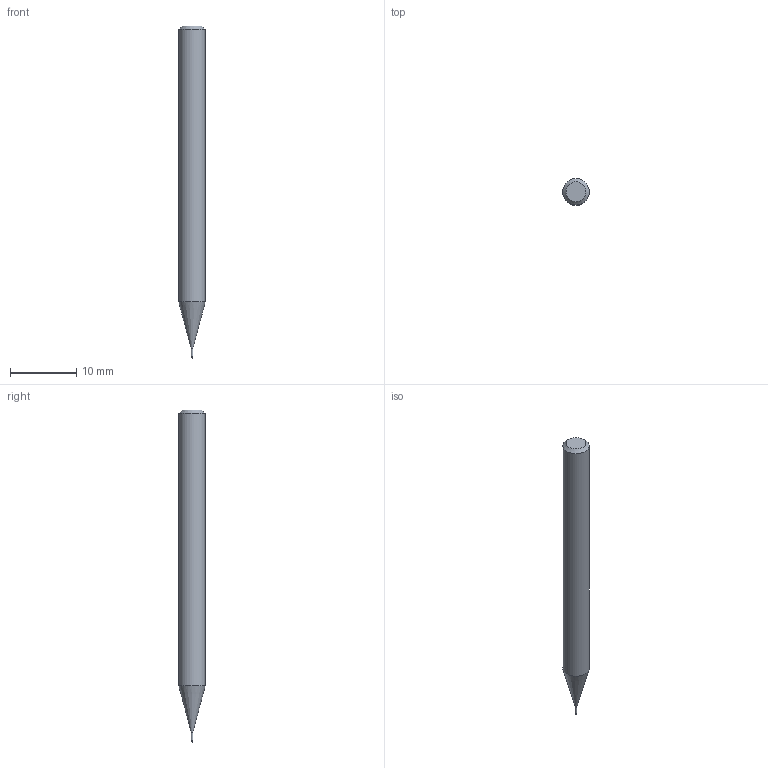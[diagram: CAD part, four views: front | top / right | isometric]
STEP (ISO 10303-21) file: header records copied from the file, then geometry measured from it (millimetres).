
FILE_DESCRIPTION((''),'2;1');
FILE_NAME('C:\Users\nsx150\AppData\Local\Temp\Mastercam 2021\LJSIDMOTM8\TEMP.step','2021-08-03T14:23:46',(''),(''),'STEP Write','Mastercam 2021 ... CNC Software, Inc.','');
FILE_SCHEMA(('AUTOMOTIVE_DESIGN'));
Length unit declared in the file: millimetre
Products named in the file (1): None
Bounding box: 4 x 4 x 50 mm (x, y, z)
Volume: 552.1 mm3; surface area: 580.6 mm2
Topology: 2 solids, 2 shells, 9 faces, 14 edges, 8 vertices
Faces by surface type: plane 3, cylinder 3, cone 2, sphere 1
Full cylindrical faces by diameter (mm): 0.28 x1, 0.3 x1, 4 x1
Entity records: 211 total; most frequent: DIRECTION 36, CARTESIAN_POINT 25, AXIS2_PLACEMENT_3D 18, ORIENTED_EDGE 14, EDGE_LOOP 14, STYLED_ITEM 12, ADVANCED_FACE 9, FACE_BOUND 8
